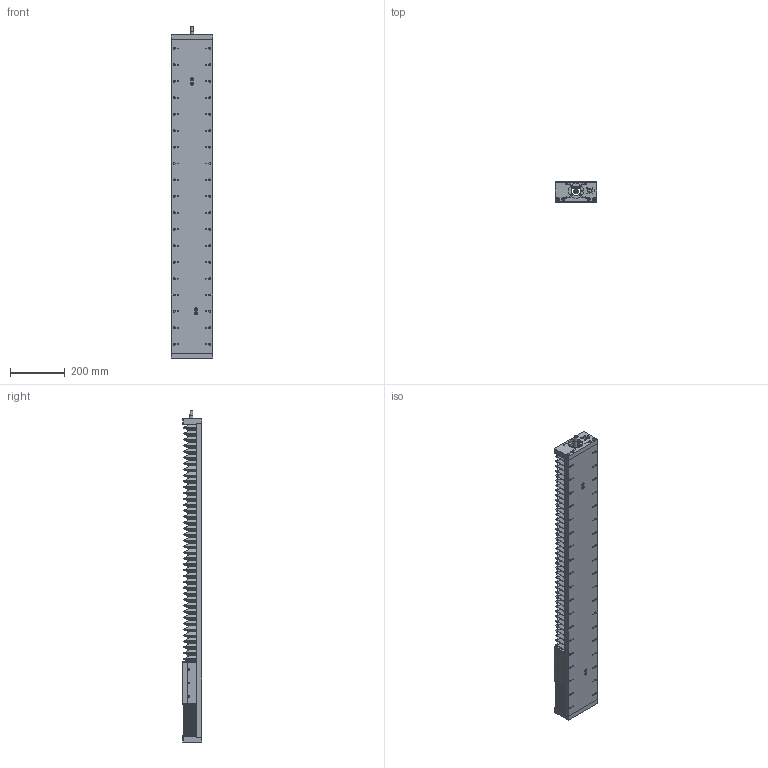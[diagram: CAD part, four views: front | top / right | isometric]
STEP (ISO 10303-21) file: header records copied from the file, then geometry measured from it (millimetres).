
FILE_DESCRIPTION(('STEP AP214'), '1');
FILE_NAME('PLLM-61-05750.01.000 - Ìîäóëü ëèíåéíîãî ïåðåìåùåíèÿ', '', ('UNSPECIFIED'), ('UNSPECIFIED'), 'C3D Converter', 'C3D Toolkit', '');
FILE_SCHEMA(('AUTOMOTIVE_DESIGN { 1 0 10303 214 3 1 1}'));
Length unit declared in the file: millimetre
Products named in the file (17): PLLM-61-05750.01.000; PLLM-61-05750.00.001; PLLM-61-05000.00.002; PLLM-61-05750.00.009; PLLM-61-05000.00.003; PLLM-61-05000.01.100; PLLM-61-05000.01.101; PLLM-61-05000.00.202; PLLM-61-05750.00.100; PLLM-61-05750.00.101; PLLM-61-05000.00.102; PLLM-61-05000.00.103; PLLM-61-05000.00.010
Assembly tree (104 placements, depth 3):
  PLLM-61-05750.01.000
    PLLM-61-05750.00.001
    PLLM-61-05000.00.002
    PLLM-61-05750.00.009
    PLLM-61-05000.00.003
    PLLM-61-05000.01.100
      PLLM-61-05000.01.101
      PLLM-61-05000.00.202
      PLLM-61-05000.00.202
      (unnamed)  x6
    PLLM-61-05750.00.100
      PLLM-61-05750.00.101
      PLLM-61-05000.00.102  x2
      PLLM-61-05000.00.103  x40
    PLLM-61-05750.00.100
      PLLM-61-05750.00.101
      PLLM-61-05000.00.102  x2
      PLLM-61-05000.00.103  x40
    PLLM-61-05000.00.010  x2
Bounding box: 152 x 73 x 1212 mm (x, y, z)
Volume: 4672053.9 mm3; surface area: 2694826.9 mm2
Topology: 101 solids, 101 shells, 5769 faces, 15673 edges, 10174 vertices
Faces by surface type: plane 5189, cylinder 434, cone 140, torus 6
Full cylindrical faces by diameter (mm): 2.459 x51, 3.242 x38, 3.5 x42, 4 x4, 4.134 x4, 4.5 x32, 4.917 x26, 5 x10, 5.5 x28, 6 x8, 6.6 x18, 7 x42, 8 x16, 9.5 x8, 10 x11, 11 x18, 11.3 x1, 12 x41, 16 x2, 34 x2, 55 x2
Entity records: 148228 total; most frequent: CARTESIAN_POINT 23536, ORIENTED_EDGE 19828, DIRECTION 18697, EDGE_CURVE 9914, LINE 8963, VECTOR 8963, VERTEX_POINT 6656, AXIS2_PLACEMENT_3D 4867
